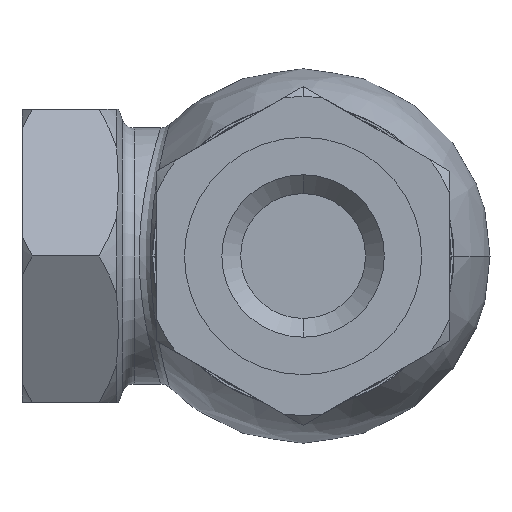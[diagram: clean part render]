
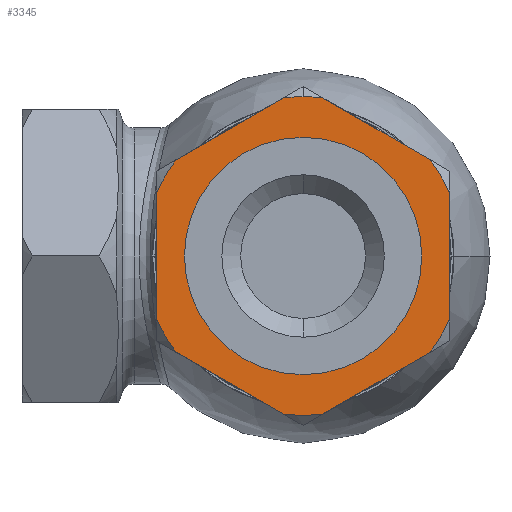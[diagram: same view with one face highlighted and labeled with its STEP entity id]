
A CAD part, front view. The second image highlights one B-rep face of the part: STEP entity #3345.
In plain terms, the highlighted planar face has unit normal (0, -1, 0).
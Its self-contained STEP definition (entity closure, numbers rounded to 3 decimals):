
#33 = DIRECTION ( 'NONE',  ( 0., 1., 0. ) ) ;
#142 = VECTOR ( 'NONE', #8679, 1000. ) ;
#169 = VERTEX_POINT ( 'NONE', #414 ) ;
#202 = DIRECTION ( 'NONE',  ( 0., 0., 1. ) ) ;
#247 = ORIENTED_EDGE ( 'NONE', *, *, #2991, .T. ) ;
#300 = EDGE_CURVE ( 'NONE', #4144, #169, #7906, .T. ) ;
#414 = CARTESIAN_POINT ( 'NONE',  ( 0., -40., 25.5 ) ) ;
#488 = ORIENTED_EDGE ( 'NONE', *, *, #1090, .T. ) ;
#551 = LINE ( 'NONE', #7227, #1456 ) ;
#561 = EDGE_CURVE ( 'NONE', #7228, #4144, #4914, .T. ) ;
#700 = DIRECTION ( 'NONE',  ( 0., 0., 1. ) ) ;
#761 = CIRCLE ( 'NONE', #4176, 19. ) ;
#900 = VECTOR ( 'NONE', #3150, 1000. ) ;
#914 = CIRCLE ( 'NONE', #1800, 25.5 ) ;
#1048 = CARTESIAN_POINT ( 'NONE',  ( 0., -40., 0. ) ) ;
#1090 = EDGE_CURVE ( 'NONE', #2651, #5910, #761, .T. ) ;
#1287 = CARTESIAN_POINT ( 'NONE',  ( 0., -40., 0. ) ) ;
#1323 = EDGE_CURVE ( 'NONE', #11001, #7260, #10831, .T. ) ;
#1384 = ORIENTED_EDGE ( 'NONE', *, *, #561, .T. ) ;
#1456 = VECTOR ( 'NONE', #2976, 1000. ) ;
#1522 = VERTEX_POINT ( 'NONE', #9230 ) ;
#1666 = DIRECTION ( 'NONE',  ( 0., 1., 0. ) ) ;
#1800 = AXIS2_PLACEMENT_3D ( 'NONE', #2341, #7437, #8282 ) ;
#1880 = CARTESIAN_POINT ( 'NONE',  ( 0., -40., 19. ) ) ;
#1884 = PLANE ( 'NONE',  #3470 ) ;
#1937 = CARTESIAN_POINT ( 'NONE',  ( 23.5, -40., -13.568 ) ) ;
#1995 = AXIS2_PLACEMENT_3D ( 'NONE', #1287, #4740, #8180 ) ;
#2008 = ORIENTED_EDGE ( 'NONE', *, *, #4095, .T. ) ;
#2012 = AXIS2_PLACEMENT_3D ( 'NONE', #5238, #33, #10495 ) ;
#2110 = DIRECTION ( 'NONE',  ( 0.866, 0., 0.5 ) ) ;
#2115 = CARTESIAN_POINT ( 'NONE',  ( -23.5, -40., 9.899 ) ) ;
#2126 = DIRECTION ( 'NONE',  ( -0.866, 0., -0.5 ) ) ;
#2207 = VERTEX_POINT ( 'NONE', #9342 ) ;
#2303 = CARTESIAN_POINT ( 'NONE',  ( 23.5, -40., 13.568 ) ) ;
#2341 = CARTESIAN_POINT ( 'NONE',  ( 0., -40., 0. ) ) ;
#2376 = AXIS2_PLACEMENT_3D ( 'NONE', #10835, #7156, #2966 ) ;
#2457 = CARTESIAN_POINT ( 'NONE',  ( 0., -40., 0. ) ) ;
#2651 = VERTEX_POINT ( 'NONE', #3543 ) ;
#2945 = EDGE_CURVE ( 'NONE', #5867, #7420, #551, .T. ) ;
#2966 = DIRECTION ( 'NONE',  ( 0., 0., 1. ) ) ;
#2976 = DIRECTION ( 'NONE',  ( 0.866, 0., -0.5 ) ) ;
#2991 = EDGE_CURVE ( 'NONE', #6618, #2207, #5631, .T. ) ;
#3021 = AXIS2_PLACEMENT_3D ( 'NONE', #4823, #3284, #700 ) ;
#3054 = EDGE_CURVE ( 'NONE', #2207, #3439, #10322, .T. ) ;
#3150 = DIRECTION ( 'NONE',  ( -0.866, 0., 0.5 ) ) ;
#3245 = DIRECTION ( 'NONE',  ( 0., -1., 0. ) ) ;
#3282 = CARTESIAN_POINT ( 'NONE',  ( 0., -40., 0. ) ) ;
#3284 = DIRECTION ( 'NONE',  ( 0., -1., 0. ) ) ;
#3306 = AXIS2_PLACEMENT_3D ( 'NONE', #2457, #3245, #5844 ) ;
#3345 = ADVANCED_FACE ( 'NONE', ( #7948, #10447 ), #1884, .F. ) ;
#3366 = ORIENTED_EDGE ( 'NONE', *, *, #3550, .T. ) ;
#3384 = EDGE_CURVE ( 'NONE', #7260, #7228, #9978, .T. ) ;
#3409 = CARTESIAN_POINT ( 'NONE',  ( -23.5, -40., -9.899 ) ) ;
#3439 = VERTEX_POINT ( 'NONE', #2115 ) ;
#3470 = AXIS2_PLACEMENT_3D ( 'NONE', #9582, #9527, #6987 ) ;
#3543 = CARTESIAN_POINT ( 'NONE',  ( 0., -40., -19. ) ) ;
#3550 = EDGE_CURVE ( 'NONE', #7420, #11146, #5983, .T. ) ;
#3801 = VECTOR ( 'NONE', #2126, 1000. ) ;
#3825 = VERTEX_POINT ( 'NONE', #3409 ) ;
#3908 = CARTESIAN_POINT ( 'NONE',  ( -3.177, -40., 25.301 ) ) ;
#3918 = LINE ( 'NONE', #9806, #10522 ) ;
#4023 = DIRECTION ( 'NONE',  ( 0., -1., 0. ) ) ;
#4095 = EDGE_CURVE ( 'NONE', #1522, #11001, #914, .T. ) ;
#4144 = VERTEX_POINT ( 'NONE', #9354 ) ;
#4176 = AXIS2_PLACEMENT_3D ( 'NONE', #1048, #1666, #4391 ) ;
#4201 = ORIENTED_EDGE ( 'NONE', *, *, #5889, .T. ) ;
#4391 = DIRECTION ( 'NONE',  ( 0., 0., 1. ) ) ;
#4500 = CARTESIAN_POINT ( 'NONE',  ( -20.323, -40., -15.402 ) ) ;
#4539 = EDGE_CURVE ( 'NONE', #11146, #1522, #3918, .T. ) ;
#4546 = EDGE_LOOP ( 'NONE', ( #1384, #5935, #9509, #247, #11061, #10460, #5160, #5398, #3366, #7610, #2008, #9712, #9250 ) ) ;
#4740 = DIRECTION ( 'NONE',  ( 0., -1., 0. ) ) ;
#4823 = CARTESIAN_POINT ( 'NONE',  ( 0., -40., 0. ) ) ;
#4914 = LINE ( 'NONE', #2303, #900 ) ;
#5160 = ORIENTED_EDGE ( 'NONE', *, *, #7845, .T. ) ;
#5238 = CARTESIAN_POINT ( 'NONE',  ( 0., -40., 0. ) ) ;
#5242 = DIRECTION ( 'NONE',  ( 0., -1., 0. ) ) ;
#5292 = CARTESIAN_POINT ( 'NONE',  ( 3.177, -40., -25.301 ) ) ;
#5295 = CARTESIAN_POINT ( 'NONE',  ( 0., -40., 0. ) ) ;
#5353 = CARTESIAN_POINT ( 'NONE',  ( -3.177, -40., -25.301 ) ) ;
#5398 = ORIENTED_EDGE ( 'NONE', *, *, #2945, .T. ) ;
#5604 = CIRCLE ( 'NONE', #2012, 19. ) ;
#5631 = LINE ( 'NONE', #7283, #3801 ) ;
#5823 = EDGE_LOOP ( 'NONE', ( #4201, #488 ) ) ;
#5844 = DIRECTION ( 'NONE',  ( 0., 0., 1. ) ) ;
#5867 = VERTEX_POINT ( 'NONE', #4500 ) ;
#5889 = EDGE_CURVE ( 'NONE', #5910, #2651, #5604, .T. ) ;
#5910 = VERTEX_POINT ( 'NONE', #1880 ) ;
#5935 = ORIENTED_EDGE ( 'NONE', *, *, #300, .T. ) ;
#5964 = CARTESIAN_POINT ( 'NONE',  ( 23.5, -40., -9.899 ) ) ;
#5983 = CIRCLE ( 'NONE', #2376, 25.5 ) ;
#6618 = VERTEX_POINT ( 'NONE', #3908 ) ;
#6810 = EDGE_CURVE ( 'NONE', #169, #6618, #7272, .T. ) ;
#6816 = CARTESIAN_POINT ( 'NONE',  ( -23.5, -40., 13.568 ) ) ;
#6987 = DIRECTION ( 'NONE',  ( 0., 0., 1. ) ) ;
#7156 = DIRECTION ( 'NONE',  ( 0., -1., 0. ) ) ;
#7207 = DIRECTION ( 'NONE',  ( 0., 0., 1. ) ) ;
#7227 = CARTESIAN_POINT ( 'NONE',  ( -23.5, -40., -13.568 ) ) ;
#7228 = VERTEX_POINT ( 'NONE', #7327 ) ;
#7260 = VERTEX_POINT ( 'NONE', #8407 ) ;
#7272 = CIRCLE ( 'NONE', #8351, 25.5 ) ;
#7283 = CARTESIAN_POINT ( 'NONE',  ( 0., -40., 27.135 ) ) ;
#7327 = CARTESIAN_POINT ( 'NONE',  ( 20.323, -40., 15.402 ) ) ;
#7420 = VERTEX_POINT ( 'NONE', #5353 ) ;
#7437 = DIRECTION ( 'NONE',  ( 0., -1., 0. ) ) ;
#7610 = ORIENTED_EDGE ( 'NONE', *, *, #4539, .T. ) ;
#7645 = DIRECTION ( 'NONE',  ( 0., 0., 1. ) ) ;
#7845 = EDGE_CURVE ( 'NONE', #3825, #5867, #8371, .T. ) ;
#7906 = CIRCLE ( 'NONE', #3021, 25.5 ) ;
#7948 = FACE_BOUND ( 'NONE', #5823, .T. ) ;
#8180 = DIRECTION ( 'NONE',  ( 0., 0., 1. ) ) ;
#8282 = DIRECTION ( 'NONE',  ( 0., 0., 1. ) ) ;
#8351 = AXIS2_PLACEMENT_3D ( 'NONE', #3282, #4023, #7645 ) ;
#8371 = CIRCLE ( 'NONE', #3306, 25.5 ) ;
#8407 = CARTESIAN_POINT ( 'NONE',  ( 23.5, -40., 9.899 ) ) ;
#8679 = DIRECTION ( 'NONE',  ( 0., 0., -1. ) ) ;
#8693 = VECTOR ( 'NONE', #7207, 1000. ) ;
#9230 = CARTESIAN_POINT ( 'NONE',  ( 20.323, -40., -15.402 ) ) ;
#9250 = ORIENTED_EDGE ( 'NONE', *, *, #3384, .T. ) ;
#9342 = CARTESIAN_POINT ( 'NONE',  ( -20.323, -40., 15.402 ) ) ;
#9354 = CARTESIAN_POINT ( 'NONE',  ( 3.177, -40., 25.301 ) ) ;
#9509 = ORIENTED_EDGE ( 'NONE', *, *, #6810, .T. ) ;
#9527 = DIRECTION ( 'NONE',  ( 0., 1., 0. ) ) ;
#9582 = CARTESIAN_POINT ( 'NONE',  ( 19., -40., 0. ) ) ;
#9712 = ORIENTED_EDGE ( 'NONE', *, *, #1323, .T. ) ;
#9800 = AXIS2_PLACEMENT_3D ( 'NONE', #5295, #5242, #202 ) ;
#9806 = CARTESIAN_POINT ( 'NONE',  ( 0., -40., -27.135 ) ) ;
#9978 = CIRCLE ( 'NONE', #9800, 25.5 ) ;
#10214 = LINE ( 'NONE', #6816, #142 ) ;
#10322 = CIRCLE ( 'NONE', #1995, 25.5 ) ;
#10447 = FACE_OUTER_BOUND ( 'NONE', #4546, .T. ) ;
#10460 = ORIENTED_EDGE ( 'NONE', *, *, #10962, .T. ) ;
#10495 = DIRECTION ( 'NONE',  ( 0., 0., 1. ) ) ;
#10522 = VECTOR ( 'NONE', #2110, 1000. ) ;
#10831 = LINE ( 'NONE', #1937, #8693 ) ;
#10835 = CARTESIAN_POINT ( 'NONE',  ( 0., -40., 0. ) ) ;
#10962 = EDGE_CURVE ( 'NONE', #3439, #3825, #10214, .T. ) ;
#11001 = VERTEX_POINT ( 'NONE', #5964 ) ;
#11061 = ORIENTED_EDGE ( 'NONE', *, *, #3054, .T. ) ;
#11146 = VERTEX_POINT ( 'NONE', #5292 ) ;
